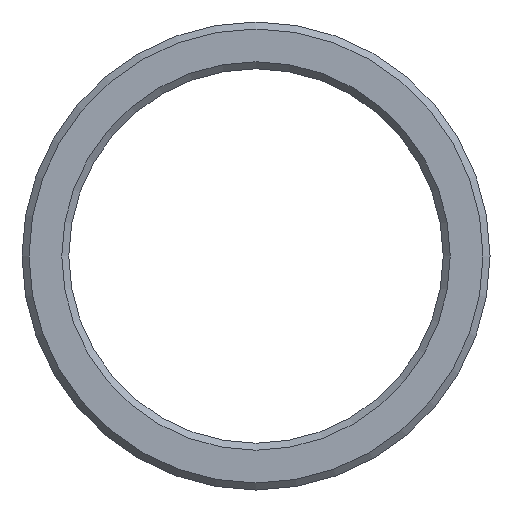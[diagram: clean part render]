
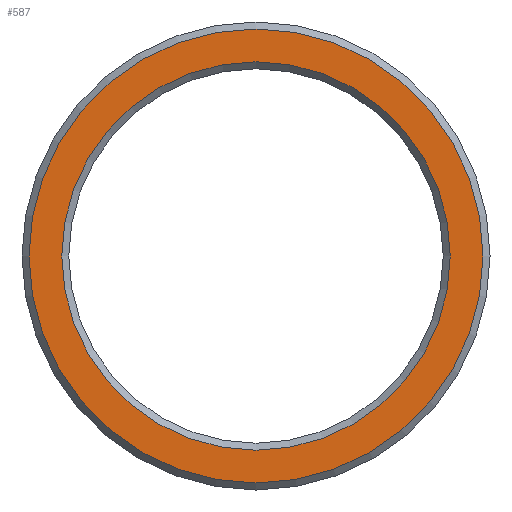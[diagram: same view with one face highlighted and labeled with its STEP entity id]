
A CAD part, front view. The second image highlights one B-rep face of the part: STEP entity #587.
In plain terms, the highlighted planar face has unit normal (0, -1, 0).
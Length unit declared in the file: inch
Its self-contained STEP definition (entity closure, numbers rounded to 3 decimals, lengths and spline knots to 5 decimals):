
#15=FACE_BOUND('',#94,.T.);
#17=PLANE('',#692);
#58=FACE_OUTER_BOUND('',#93,.T.);
#93=EDGE_LOOP('',(#510));
#94=EDGE_LOOP('',(#511));
#214=CIRCLE('',#690,0.32677);
#216=CIRCLE('',#693,0.38189);
#268=VERTEX_POINT('',#1066);
#270=VERTEX_POINT('',#1072);
#349=EDGE_CURVE('',#268,#268,#214,.T.);
#352=EDGE_CURVE('',#270,#270,#216,.T.);
#510=ORIENTED_EDGE('',*,*,#352,.F.);
#511=ORIENTED_EDGE('',*,*,#349,.F.);
#587=ADVANCED_FACE('',(#58,#15),#17,.F.);
#690=AXIS2_PLACEMENT_3D('',#1067,#882,#883);
#692=AXIS2_PLACEMENT_3D('',#1071,#887,#888);
#693=AXIS2_PLACEMENT_3D('',#1073,#889,#890);
#882=DIRECTION('center_axis',(0.,-1.,0.));
#883=DIRECTION('ref_axis',(-1.,0.,0.));
#887=DIRECTION('center_axis',(0.,1.,0.));
#888=DIRECTION('ref_axis',(0.,0.,1.));
#889=DIRECTION('center_axis',(0.,1.,0.));
#890=DIRECTION('ref_axis',(1.,0.,0.));
#1066=CARTESIAN_POINT('',(0.32677,-1.9685,0.));
#1067=CARTESIAN_POINT('Origin',(0.,-1.9685,0.));
#1071=CARTESIAN_POINT('Origin',(0.,-1.9685,
0.));
#1072=CARTESIAN_POINT('',(-0.38189,-1.9685,0.));
#1073=CARTESIAN_POINT('Origin',(0.,-1.9685,0.));
